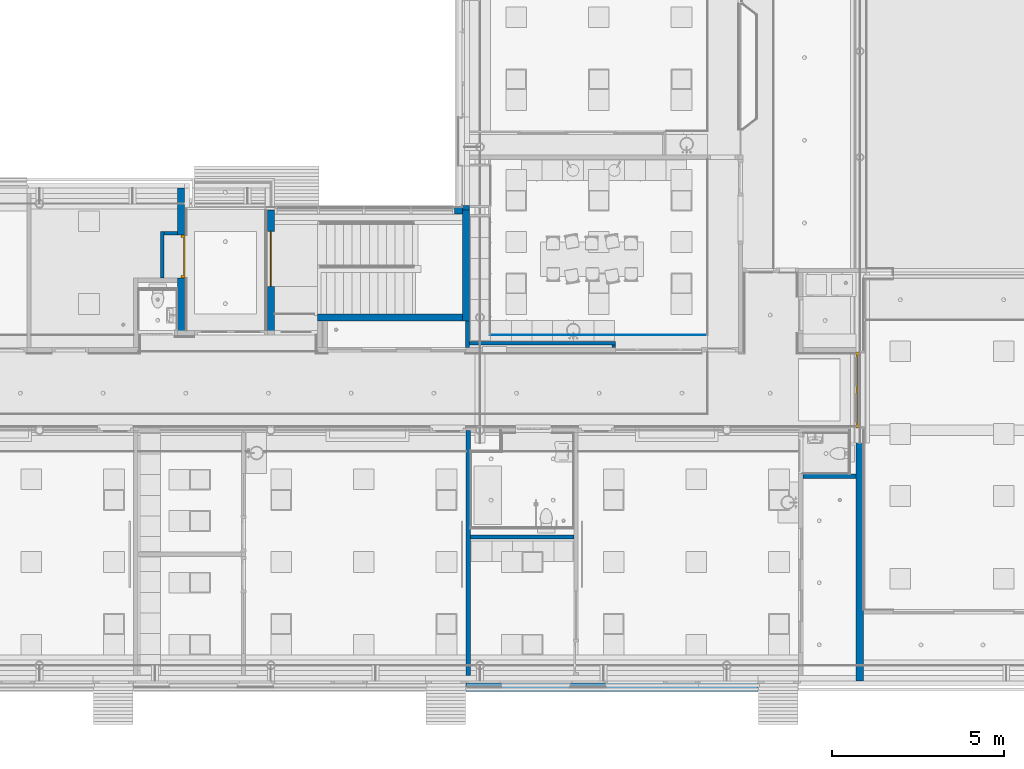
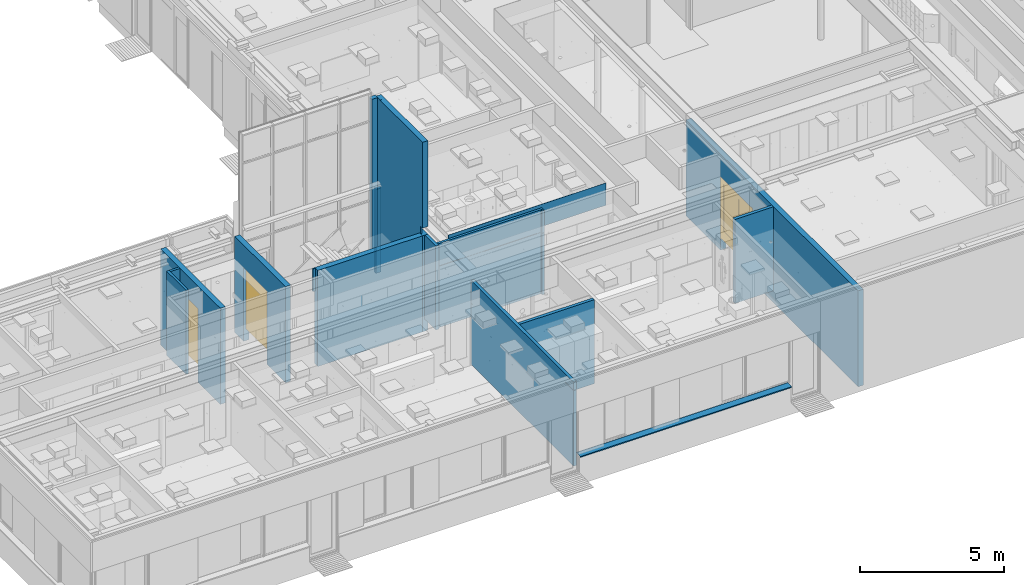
# One storey, part 69 of 347: 17 walls, 2 doors, 1 window, 4 openings.
"""IFC2X3 building model written with IfcOpenShell, lengths in millimetres."""

from ifc_helpers import new_model, entity, si_unit, converted_unit, derived_unit, money_unit, direction, frame, origin_with_axes, place, context, subcontext, project, spatial, open_shell, faceted_brep, surface_model, material, type_object, element, fill, save


model = new_model("IFC2X3")

# Units and contexts
model_context = context("Model", 3, precision=0.01, world=origin_with_axes(), true_north=direction((0.0, 1.0)))
plan_context = context("Plan", 3, precision=0.01, world=origin_with_axes(), true_north=direction((0.0, 1.0)))
body_context = subcontext(model_context, "Body", "Model", "MODEL_VIEW")
ifc_project = project(units=[si_unit("LENGTHUNIT", "METRE", prefix="MILLI"), si_unit("AREAUNIT", "SQUARE_METRE"), si_unit("VOLUMEUNIT", "CUBIC_METRE"), converted_unit("PLANEANGLEUNIT", "DEGREE", entity("IfcPlaneAngleMeasure", 0.0174532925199), si_unit("PLANEANGLEUNIT", "RADIAN"), dimensions=[0, 0, 0, 0, 0, 0, 0]), money_unit("EUR"), converted_unit("TIMEUNIT", "Year", entity("IfcTimeMeasure", 31556926.0), si_unit("TIMEUNIT", "SECOND"), dimensions=[0, 0, 1, 0, 0, 0, 0]), si_unit("MASSUNIT", "GRAM", prefix="KILO"), si_unit("THERMODYNAMICTEMPERATUREUNIT", "DEGREE_CELSIUS"), si_unit("LUMINOUSINTENSITYUNIT", "LUMEN"), si_unit("ENERGYUNIT", "JOULE", prefix="MEGA"), derived_unit("THERMALCONDUCTANCEUNIT", [(si_unit("POWERUNIT", "WATT"), 1), (si_unit("LENGTHUNIT", "METRE"), -1), (si_unit("THERMODYNAMICTEMPERATUREUNIT", "KELVIN"), -1)]), derived_unit("SPECIFICHEATCAPACITYUNIT", [(si_unit("ENERGYUNIT", "JOULE"), 1), (si_unit("MASSUNIT", "GRAM", prefix="KILO"), -1), (si_unit("THERMODYNAMICTEMPERATUREUNIT", "KELVIN"), -1)]), derived_unit("MASSDENSITYUNIT", [(si_unit("MASSUNIT", "GRAM", prefix="KILO"), 1), (si_unit("VOLUMEUNIT", "CUBIC_METRE"), -1)])], contexts=[model_context, plan_context])

# Site, building, storey
site_placement = place(None, origin_with_axes())
site = spatial("IfcSite", under=ifc_project, at=site_placement, Name="Site", CompositionType="ELEMENT")
building_placement = place(site_placement, origin_with_axes())
building = spatial("IfcBuilding", under=site, at=building_placement, Name="Naam gebouw", CompositionType="ELEMENT")
storey_placement = place(building_placement, origin_with_axes())
storey = spatial("IfcBuildingStorey", under=building, at=storey_placement, Name="begane grond", CompositionType="ELEMENT", Elevation=0.0)

# Wall, opening, door
ifc_material_1 = material(Name="Beton gewapend prefab wand")
wall_type_1 = type_object("IfcWallType", Name="Betonwand 200 210", PredefinedType="NOTDEFINED")
wall_1_placement = place(storey_placement, frame((15795.0, 19000.0, -510.0), z_axis=(0.0, 0.0, 1.0), x_axis=(0.0, -1.0, 0.0)))
wall_1 = element("IfcWall", 1, at=wall_1_placement, inside=storey, type_object=wall_type_1, material=ifc_material_1, Name="21_GF 125 ECO DGS/2.75.3A", context=body_context, shape_type="Brep", body=[
    faceted_brep([(2457.0, 210.0, 440.0), (2457.0, 210.0, 3110.0), (1213.0, 210.0, 3110.0), (1213.0, 210.0, 440.0), (1210.0, 210.0, 440.0), (1210.0, 210.0, 0.0), (-150.000034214, 209.999997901, 0.0), (-150.000034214, 209.999997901, 60.0000016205), (-150.0, 210.0, 4070.0), (4000.0, 210.0, 4070.0), (4000.0, 210.0, 0.0), (2460.0, 210.0, 0.0), (2460.0, 210.0, 440.0), (2457.0, 0.0, 440.0), (2457.0, 0.0, 3110.0), (1213.0, 0.0, 3110.0), (1213.0, 0.0, 440.0), (1210.0, 0.0, 440.0), (1210.0, 0.0, 0.0), (-150.00003367, 0.0, 0.0), (-150.0, 0.0, 4070.0), (4000.0, 0.0, 4070.0), (4000.0, 0.0, 0.0), (2460.0, 0.0, 0.0), (2460.0, 0.0, 440.0)], [[[0, 1, 2, 3, 4, 5, 6, 7, 8, 9, 10, 11, 12]], [[1, 0, 13, 14]], [[2, 1, 14, 15]], [[3, 2, 15, 16]], [[3, 16, 17, 4]], [[4, 17, 18, 5]], [[5, 18, 19, 6]], [[8, 7, 6, 19, 20]], [[8, 20, 21, 9]], [[9, 21, 22, 10]], [[23, 11, 10, 22]], [[24, 12, 11, 23]], [[13, 0, 12, 24]], [[14, 13, 24, 23, 22, 21, 20, 19, 18, 17, 16, 15]]]),
])
opening_1_placement = place(wall_1_placement, frame((1835.0, 0.0, 510.0), z_axis=(0.0, 0.0, 1.0), x_axis=(1.0, 0.0, 0.0)))
opening_1 = element("IfcOpeningElement", 2, at=opening_1_placement, cuts=wall_1, Name="32_05.08", context=body_context, shape_type="Brep", body=[
    faceted_brep([(622.0, -210.0, 2600.0), (622.0, -210.0, -70.0), (622.0, 427.0, -70.0), (622.0, 427.0, 2600.0), (-622.0, -210.0, 2600.0), (-622.0, -210.0, -70.0), (-622.0, 427.0, -70.0), (-622.0, 427.0, 2600.0)], [[[0, 1, 2, 3]], [[0, 4, 5, 1]], [[1, 5, 6, 2]], [[3, 2, 6, 7]], [[4, 0, 3, 7]], [[5, 4, 7, 6]]]),
])
door_style_1 = type_object("IfcDoorStyle", Name="D2 25", ConstructionType="NOTDEFINED", OperationType="DOUBLE_DOOR_SINGLE_SWING", ParameterTakesPrecedence=False, Sizeable=False)
door_1_placement = place(opening_1_placement, frame((-622.0, 0.0, 0.0), z_axis=(0.0, 0.0, 1.0), x_axis=(1.0, 0.0, 0.0)))
door_1 = element("IfcDoor", 3, at=door_1_placement, inside=storey, type_object=door_style_1, Name="32_05.08", ObjectType="DOOR", OverallHeight=2600.0, OverallWidth=1244.0, context=body_context, shape_type="Brep", body=[
    faceted_brep([(67.0, 172.0, 0.0), (67.0, 172.0, 2533.0), (67.0, 103.0, 2533.0), (67.0, 103.0, 0.0), (42.0, 172.0, 2533.0), (42.0, 172.0, 0.0), (42.0, 217.0, 2533.0), (0.0, 217.0, 2533.0), (0.0, 103.0, 2533.0), (0.0, 103.0, 0.0), (0.0, 217.0, 0.0), (42.0, 217.0, 0.0)], [[[0, 1, 2, 3]], [[4, 1, 0, 5]], [[4, 6, 7, 8, 2, 1]], [[3, 2, 8, 9]], [[5, 0, 3, 9, 10, 11]], [[6, 4, 5, 11]], [[6, 11, 10, 7]], [[10, 9, 8, 7]]]),
    faceted_brep([(1202.0, 172.0, 2533.0), (1177.0, 172.0, 2533.0), (1177.0, 103.0, 2533.0), (1244.0, 103.0, 2533.0), (1244.0, 217.0, 2533.0), (1202.0, 217.0, 2533.0), (1202.0, 172.0, 0.0), (1177.0, 172.0, 0.0), (1177.0, 103.0, 0.0), (1244.0, 103.0, 0.0), (1244.0, 217.0, 0.0), (1202.0, 217.0, 0.0)], [[[0, 1, 2, 3, 4, 5]], [[1, 0, 6, 7]], [[1, 7, 8, 2]], [[3, 2, 8, 9]], [[4, 3, 9, 10]], [[11, 5, 4, 10]], [[0, 5, 11, 6]], [[6, 11, 10, 9, 8, 7]]]),
    faceted_brep([(42.0, 217.0, 2558.0), (42.0, 217.0, 2533.0), (0.0, 217.0, 2533.0), (0.0, 217.0, 2600.0), (1244.0, 217.0, 2600.0), (1244.0, 217.0, 2533.0), (1202.0, 217.0, 2533.0), (1202.0, 217.0, 2558.0), (42.0, 172.0, 2558.0), (42.0, 172.0, 2533.0), (67.0, 172.0, 2533.0), (67.0, 103.0, 2533.0), (0.0, 103.0, 2533.0), (0.0, 103.0, 2600.0), (1244.0, 103.0, 2600.0), (1244.0, 103.0, 2533.0), (1202.0, 172.0, 2533.0), (1177.0, 103.0, 2533.0), (1177.0, 172.0, 2533.0), (1202.0, 172.0, 2558.0)], [[[0, 1, 2, 3, 4, 5, 6, 7]], [[1, 0, 8, 9]], [[9, 10, 11, 12, 2, 1]], [[2, 12, 13, 3]], [[3, 13, 14, 4]], [[4, 14, 15, 5]], [[16, 6, 5, 15, 17, 18]], [[7, 6, 16, 19]], [[0, 7, 19, 8]], [[16, 18, 10, 9, 8, 19]], [[10, 18, 17, 11]], [[17, 15, 14, 13, 12, 11]]]),
    faceted_brep([(1202.0, 212.0, 0.0), (1202.0, 172.0, 0.0), (622.0, 172.0, 0.0), (622.0, 212.0, 0.0), (1202.0, 212.0, 2558.0), (1202.0, 172.0, 2558.0), (622.0, 172.0, 2558.0), (622.0, 212.0, 2558.0)], [[[0, 1, 2, 3]], [[4, 5, 1, 0]], [[1, 5, 6, 2]], [[3, 2, 6, 7]], [[0, 3, 7, 4]], [[7, 6, 5, 4]]]),
    faceted_brep([(42.0, 212.0, 0.0), (622.0, 212.0, 0.0), (622.0, 172.0, 0.0), (42.0, 172.0, 0.0), (42.0, 212.0, 2558.0), (622.0, 212.0, 2558.0), (622.0, 172.0, 2558.0), (42.0, 172.0, 2558.0)], [[[0, 1, 2, 3]], [[0, 4, 5, 1]], [[1, 5, 6, 2]], [[3, 2, 6, 7]], [[4, 0, 3, 7]], [[5, 4, 7, 6]]]),
])
fill(opening_1, door_1)

# Walls
wall_2_placement = place(storey_placement, frame((24275.0, 18523.0, -510.0), z_axis=(0.0, 0.0, 1.0), x_axis=(0.0, -1.0, 0.0)))
element("IfcWall", 4, at=wall_2_placement, inside=storey, type_object=wall_type_1, material=ifc_material_1, Name="21_GF 125 ECO DGS/2.75.3A", context=body_context, shape_type="Brep", body=[
    faceted_brep([(3233.0, 0.0, 8030.0), (3233.0, 0.0, 4390.0), (0.0, 0.0, 4390.0), (0.0, 0.0, 8030.0), (3233.0, -210.0, 8030.0), (3233.0, -210.0, 4390.0), (0.0, -150.0, 4390.0), (3082.99991568, -210.0, 4390.0), (3082.99991568, -150.0, 4390.0), (0.0, -210.0, 8040.0), (0.0, -150.0, 8040.0), (0.0, -150.0, 8030.0), (0.0, -150.0, 4070.0), (0.0, 0.0, 4070.0), (0.0, 0.0, 0.0), (0.0, -210.0, 0.0), (292.999999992, -150.0, 8030.0), (292.999999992, -210.0, 8030.0), (3082.99991568, -210.0, 4070.0), (292.999999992, -210.0, 8040.0), (3233.0, -210.0, 0.0), (3233.0, -210.0, 4070.0), (3082.99991568, -150.0, 4070.0), (292.999999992, -150.0, 8040.0), (3233.0, 0.0, 4070.0), (3233.0, 0.0, 0.0)], [[[0, 1, 2, 3]], [[4, 5, 1, 0]], [[6, 2, 1, 5, 7, 8]], [[9, 10, 11, 3, 2, 6, 12, 13, 14, 15]], [[16, 17, 4, 0, 3, 11]], [[18, 7, 5, 4, 17, 19, 9, 15, 20, 21]], [[18, 22, 8, 7]], [[6, 8, 22, 12]], [[9, 19, 23, 10]], [[10, 23, 16, 11]], [[12, 22, 18, 21, 24, 13]], [[13, 24, 25, 14]], [[25, 20, 15, 14]], [[17, 16, 23, 19]], [[25, 24, 21, 20]]]),
])
wall_3_placement = place(storey_placement, frame((19865.0, 15500.0, -510.0), z_axis=(0.0, 0.0, 1.0), x_axis=(1.0, 0.0, 0.0)))
element("IfcWall", 5, at=wall_3_placement, inside=storey, type_object=wall_type_1, material=ifc_material_1, Name="21_GF 125 ECO DGS/2.75.3A", context=body_context, shape_type="Brep", body=[
    faceted_brep([(4200.0, 0.0, 0.0), (0.0, 0.0, 0.0), (0.0, 0.0, 510.0), (0.0, 0.0, 3110.0), (-100.0, 0.0, 3110.0), (-100.0, 0.0, 4070.0), (4200.0, 0.0, 4070.0), (4200.0, -210.0, 0.0), (0.0, -210.0, 0.0), (0.0, -210.0, 510.0), (0.0, -210.0, 4070.0), (0.0, -50.0, 4070.0), (0.0, -50.0, 3110.0), (-100.0, -50.0, 3110.0), (-100.0, -50.0, 4070.0), (4200.0, -210.0, 4070.0)], [[[0, 1, 2, 3, 4, 5, 6]], [[7, 8, 1, 0]], [[3, 2, 1, 8, 9, 10, 11, 12]], [[3, 12, 13, 4]], [[4, 13, 14, 5]], [[14, 11, 10, 15, 6, 5]], [[0, 6, 15, 7]], [[10, 9, 8, 7, 15]], [[12, 11, 14, 13]]]),
])

# Wall, openings, window
wall_4_placement = place(storey_placement, frame((18405.0, 18523.0, -510.0), z_axis=(0.0, 0.0, 1.0), x_axis=(0.0, -1.0, 0.0)))
wall_4 = element("IfcWall", 6, at=wall_4_placement, inside=storey, type_object=wall_type_1, material=ifc_material_1, Name="21_GF 125 ECO DGS/2.75.3A", context=body_context, shape_type="Brep", body=[
    faceted_brep([(623.0, 210.0, 510.0), (623.0, 210.0, 440.0), (623.0, 210.0, 0.0), (0.0, 210.0, 0.0), (0.0, 210.0, 4070.0), (3523.0, 210.0, 4070.0), (3523.0, 210.0, 0.0), (2223.0, 210.0, 0.0), (2223.0, 210.0, 440.0), (2223.0, 210.0, 510.0), (2223.0, 210.0, 3110.0), (623.0, 210.0, 3110.0), (623.0, 0.0, 510.0), (623.0, 0.0, 440.0), (623.0, 0.0, 0.0), (0.0, 0.0, 0.0), (0.0, 0.0, 4070.0), (3523.0, 0.0, 4070.0), (3523.0, 0.0, 0.0), (2223.0, 0.0, 0.0), (2223.0, 0.0, 440.0), (2223.0, 0.0, 510.0), (2223.0, 0.0, 3110.0), (623.0, 0.0, 3110.0)], [[[0, 1, 2, 3, 4, 5, 6, 7, 8, 9, 10, 11]], [[1, 0, 12, 13]], [[1, 13, 14, 2]], [[15, 3, 2, 14]], [[15, 16, 4, 3]], [[5, 4, 16, 17]], [[5, 17, 18, 6]], [[6, 18, 19, 7]], [[20, 8, 7, 19]], [[21, 9, 8, 20]], [[9, 21, 22, 10]], [[22, 23, 11, 10]], [[12, 0, 11, 23]], [[13, 12, 23, 22, 21, 20, 19, 18, 17, 16, 15, 14]]]),
])
opening_2_placement = place(wall_4_placement, frame((1423.0, 0.0, 510.0), z_axis=(0.0, 0.0, 1.0), x_axis=(1.0, 0.0, 0.0)))
opening_2 = element("IfcOpeningElement", 7, at=opening_2_placement, cuts=wall_4, Name="31_10.18", context=body_context, shape_type="Brep", body=[
    faceted_brep([(-800.0, 110.0, 2600.0), (-800.0, 110.0, 0.0), (-800.0, -210.0, 0.0), (-800.0, -210.0, 2600.0), (800.0, 110.0, 2600.0), (800.0, 110.0, 0.0), (800.0, -210.0, 0.0), (800.0, -210.0, 2600.0)], [[[0, 1, 2, 3]], [[0, 4, 5, 1]], [[1, 5, 6, 2]], [[3, 2, 6, 7]], [[4, 0, 3, 7]], [[5, 4, 7, 6]]]),
    faceted_brep([(-800.0, 110.0, 0.0), (-800.0, 110.0, 2600.0), (-800.0, 420.0, 2600.0), (-800.0, 420.0, 0.0), (800.0, 110.0, 0.0), (800.0, 110.0, 2600.0), (800.0, 420.0, 2600.0), (800.0, 420.0, 0.0)], [[[0, 1, 2, 3]], [[0, 4, 5, 1]], [[1, 5, 6, 2]], [[3, 2, 6, 7]], [[4, 0, 3, 7]], [[5, 4, 7, 6]]]),
])
opening_3_placement = place(wall_4_placement, frame((1423.0, 0.0, 440.0), z_axis=(0.0, 0.0, 1.0), x_axis=(1.0, 0.0, 0.0)))
element("IfcOpeningElement", 8, at=opening_3_placement, cuts=wall_4, Name="32_-", context=body_context, shape_type="Brep", body=[
    faceted_brep([(-800.0, -210.0, 0.0), (-800.0, -210.0, 2670.0), (-800.0, 420.0, 2670.0), (-800.0, 420.0, 0.0), (800.0, -210.0, 0.0), (800.0, -210.0, 2670.0), (800.0, 420.0, 2670.0), (800.0, 420.0, 0.0)], [[[0, 1, 2, 3]], [[0, 4, 5, 1]], [[1, 5, 6, 2]], [[3, 2, 6, 7]], [[4, 0, 3, 7]], [[5, 4, 7, 6]]]),
])
window_style = type_object("IfcWindowStyle", Name="R1 25", ConstructionType="NOTDEFINED", OperationType="SINGLE_PANEL", ParameterTakesPrecedence=False, Sizeable=False)
window_placement = place(opening_2_placement, frame((-800.0, 0.0, 0.0), z_axis=(0.0, 0.0, 1.0), x_axis=(1.0, 0.0, 0.0)))
window = element("IfcWindow", 9, at=window_placement, inside=storey, type_object=window_style, Name="31_10.18", ObjectType="WINDOW", OverallHeight=2600.0, OverallWidth=1600.0, context=body_context, shape_type="SurfaceModel", body=[
    faceted_brep([(1580.0, 90.0, 2580.0), (1600.0, 90.0, 2580.0), (1600.0, 110.0, 2580.0), (1580.0, 110.0, 2580.0), (1580.0, 90.0, 20.0), (1600.0, 90.0, 20.0), (1600.0, 110.0, 20.0), (1580.0, 110.0, 20.0)], [[[0, 1, 2, 3]], [[0, 4, 5, 1]], [[1, 5, 6, 2]], [[3, 2, 6, 7]], [[4, 0, 3, 7]], [[5, 4, 7, 6]]]),
    faceted_brep([(20.0, 90.0, 20.0), (0.0, 90.0, 20.0), (0.0, 110.0, 20.0), (20.0, 110.0, 20.0), (20.0, 90.0, 2580.0), (0.0, 90.0, 2580.0), (0.0, 110.0, 2580.0), (20.0, 110.0, 2580.0)], [[[0, 1, 2, 3]], [[0, 4, 5, 1]], [[1, 5, 6, 2]], [[3, 2, 6, 7]], [[4, 0, 3, 7]], [[5, 4, 7, 6]]]),
    faceted_brep([(1580.0, 90.0, 20.0), (1600.0, 90.0, 20.0), (1600.0, 110.0, 20.0), (1580.0, 110.0, 20.0), (20.0, 90.0, 20.0), (0.0, 90.0, 20.0), (0.0, 90.0, 0.0), (1600.0, 90.0, 0.0), (1600.0, 110.0, 0.0), (0.0, 110.0, 0.0), (0.0, 110.0, 20.0), (20.0, 110.0, 20.0)], [[[0, 1, 2, 3]], [[0, 4, 5, 6, 7, 1]], [[1, 7, 8, 2]], [[3, 2, 8, 9, 10, 11]], [[4, 0, 3, 11]], [[5, 4, 11, 10]], [[6, 5, 10, 9]], [[7, 6, 9, 8]]]),
    faceted_brep([(20.0, 90.0, 2580.0), (0.0, 90.0, 2580.0), (0.0, 110.0, 2580.0), (20.0, 110.0, 2580.0), (1580.0, 90.0, 2580.0), (1600.0, 90.0, 2580.0), (1600.0, 90.0, 2600.0), (0.0, 90.0, 2600.0), (0.0, 110.0, 2600.0), (1600.0, 110.0, 2600.0), (1600.0, 110.0, 2580.0), (1580.0, 110.0, 2580.0)], [[[0, 1, 2, 3]], [[0, 4, 5, 6, 7, 1]], [[1, 7, 8, 2]], [[3, 2, 8, 9, 10, 11]], [[4, 0, 3, 11]], [[5, 4, 11, 10]], [[6, 5, 10, 9]], [[7, 6, 9, 8]]]),
    surface_model("IfcShellBasedSurfaceModel", [(1580.0, 90.0, 20.0), (1580.0, 90.0, 2580.0), (20.0, 90.0, 2580.0), (20.0, 90.0, 20.0)], [open_shell([[[0, 1, 2, 3]]])]),
    surface_model("IfcShellBasedSurfaceModel", [(1580.0, 110.0, 20.0), (20.0, 110.0, 20.0), (20.0, 110.0, 2580.0), (1580.0, 110.0, 2580.0)], [open_shell([[[0, 1, 2, 3]]])]),
])
fill(opening_2, window)

# Wall, opening, door
wall_5_placement = place(storey_placement, frame((35705.0, 16799.9999672, -510.000001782), z_axis=(0.0, 0.0, 1.0), x_axis=(0.0, -1.0, 0.0)))
wall_5 = element("IfcWall", 10, at=wall_5_placement, inside=storey, type_object=wall_type_1, material=ifc_material_1, Name="21_GF 125 ECO DGS/2.75.3A", context=body_context, shape_type="Brep", body=[
    faceted_brep([(4612.49996722, 0.0, 440.000001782), (4612.49996722, 0.0, 3110.00000178), (2399.99996722, 0.0, 3110.00000178), (2399.99996722, 0.0, 440.000001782), (2399.99996722, 0.0, 1.78216530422e-06), (0.0, 0.0, 0.0), (0.0, 0.0, 4070.00000178), (11949.9999672, 0.0, 4070.00000178), (11949.9999672, 0.0, 0.0), (4599.99996722, 0.0, 1.78216530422e-06), (4599.99996722, 0.0, 440.000001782), (4612.49996722, -210.0, 440.000001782), (4612.49996722, -210.0, 3110.00000178), (2399.99996722, -210.0, 3110.00000178), (2399.99996722, -210.0, 440.000001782), (2399.99996722, -210.0, 1.78216530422e-06), (0.0, -210.0, 0.0), (0.0, -210.0, 4070.00000178), (11949.9999672, -210.0, 4070.00000178), (11949.9999672, -210.0, 0.0), (4599.99996722, -210.0, 1.78216530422e-06), (4599.99996722, -210.0, 440.000001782)], [[[0, 1, 2, 3, 4, 5, 6, 7, 8, 9, 10]], [[1, 0, 11, 12]], [[2, 1, 12, 13]], [[3, 2, 13, 14]], [[3, 14, 15, 4]], [[5, 4, 15, 16]], [[6, 5, 16, 17]], [[7, 6, 17, 18]], [[19, 8, 7, 18]], [[19, 20, 9, 8]], [[21, 10, 9, 20]], [[0, 10, 21, 11]], [[11, 21, 20, 19, 18, 17, 16, 15, 14, 13, 12]]]),
])
opening_4_placement = place(wall_5_placement, frame((3506.24996722, 0.0, 510.000001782), z_axis=(0.0, 0.0, 1.0), x_axis=(1.0, 0.0, 0.0)))
opening_4 = element("IfcOpeningElement", 11, at=opening_4_placement, cuts=wall_5, Name="32_05.03", context=body_context, shape_type="Brep", body=[
    faceted_brep([(-1106.25, 210.0, 2600.0), (-1106.25, 210.0, -70.0), (-1106.25, -427.0, -70.0), (-1106.25, -427.0, 2600.0), (1106.25, 210.0, 2600.0), (1106.25, 210.0, -70.0), (1106.25, -427.0, -70.0), (1106.25, -427.0, 2600.0)], [[[0, 1, 2, 3]], [[0, 4, 5, 1]], [[1, 5, 6, 2]], [[3, 2, 6, 7]], [[4, 0, 3, 7]], [[5, 4, 7, 6]]]),
])
door_style_2 = type_object("IfcDoorStyle", Name="D2 25", ConstructionType="NOTDEFINED", OperationType="DOUBLE_DOOR_SINGLE_SWING", ParameterTakesPrecedence=False, Sizeable=False)
door_2_placement = place(opening_4_placement, frame((1106.25, 0.0, 0.0), z_axis=(0.0, 0.0, 1.0), x_axis=(-1.0, 0.0, 0.0)))
door_2 = element("IfcDoor", 12, at=door_2_placement, inside=storey, type_object=door_style_2, Name="32_05.03", ObjectType="DOOR", OverallHeight=2600.0, OverallWidth=2212.5, context=body_context, shape_type="SurfaceModel", body=[
    faceted_brep([(90.0, 163.0, 0.0), (90.0, 163.0, 2510.0), (90.0, 78.0, 2510.0), (90.0, 78.0, 0.0), (65.0, 163.0, 2510.0), (65.0, 163.0, 0.0), (65.0, 217.0, 2510.0), (0.0, 217.0, 2510.0), (0.0, 78.0, 2510.0), (0.0, 78.0, 0.0), (0.0, 217.0, 0.0), (65.0, 217.0, 0.0)], [[[0, 1, 2, 3]], [[4, 1, 0, 5]], [[4, 6, 7, 8, 2, 1]], [[3, 2, 8, 9]], [[5, 0, 3, 9, 10, 11]], [[6, 4, 5, 11]], [[6, 11, 10, 7]], [[10, 9, 8, 7]]]),
    faceted_brep([(2147.5, 163.0, 2510.0), (2122.5, 163.0, 2510.0), (2122.5, 78.0, 2510.0), (2212.5, 78.0, 2510.0), (2212.5, 217.0, 2510.0), (2147.5, 217.0, 2510.0), (2147.5, 163.0, 0.0), (2122.5, 163.0, 0.0), (2122.5, 78.0, 0.0), (2212.5, 78.0, 0.0), (2212.5, 217.0, 0.0), (2147.5, 217.0, 0.0)], [[[0, 1, 2, 3, 4, 5]], [[1, 0, 6, 7]], [[1, 7, 8, 2]], [[3, 2, 8, 9]], [[4, 3, 9, 10]], [[11, 5, 4, 10]], [[0, 5, 11, 6]], [[6, 11, 10, 9, 8, 7]]]),
    faceted_brep([(65.0, 217.0, 2535.0), (65.0, 217.0, 2510.0), (0.0, 217.0, 2510.0), (0.0, 217.0, 2600.0), (2212.5, 217.0, 2600.0), (2212.5, 217.0, 2510.0), (2147.5, 217.0, 2510.0), (2147.5, 217.0, 2535.0), (65.0, 163.0, 2535.0), (65.0, 163.0, 2510.0), (90.0, 163.0, 2510.0), (90.0, 78.0, 2510.0), (0.0, 78.0, 2510.0), (0.0, 78.0, 2600.0), (2212.5, 78.0, 2600.0), (2212.5, 78.0, 2510.0), (2147.5, 163.0, 2510.0), (2122.5, 78.0, 2510.0), (2122.5, 163.0, 2510.0), (2147.5, 163.0, 2535.0)], [[[0, 1, 2, 3, 4, 5, 6, 7]], [[1, 0, 8, 9]], [[9, 10, 11, 12, 2, 1]], [[2, 12, 13, 3]], [[3, 13, 14, 4]], [[4, 14, 15, 5]], [[16, 6, 5, 15, 17, 18]], [[7, 6, 16, 19]], [[0, 7, 19, 8]], [[16, 18, 10, 9, 8, 19]], [[10, 18, 17, 11]], [[17, 15, 14, 13, 12, 11]]]),
    faceted_brep([(2147.5, 203.0, 400.0), (2147.5, 163.0, 400.0), (2007.5, 163.0, 400.0), (2007.5, 203.0, 400.0), (2147.5, 203.0, 2395.0), (2147.5, 163.0, 2395.0), (2007.5, 163.0, 2395.0), (2007.5, 203.0, 2395.0)], [[[0, 1, 2, 3]], [[4, 5, 1, 0]], [[1, 5, 6, 2]], [[3, 2, 6, 7]], [[0, 3, 7, 4]], [[7, 6, 5, 4]]]),
    faceted_brep([(1106.25, 203.0, 400.0), (1106.25, 163.0, 400.0), (1106.25, 163.0, 2395.0), (1106.25, 203.0, 2395.0), (1246.25, 203.0, 400.0), (1246.25, 163.0, 400.0), (1246.25, 163.0, 2395.0), (1246.25, 203.0, 2395.0)], [[[0, 1, 2, 3]], [[4, 5, 1, 0]], [[1, 5, 6, 2]], [[3, 2, 6, 7]], [[0, 3, 7, 4]], [[7, 6, 5, 4]]]),
    faceted_brep([(2147.5, 203.0, 0.0), (2147.5, 163.0, 0.0), (1106.25, 163.0, 0.0), (1106.25, 203.0, 0.0), (2147.5, 203.0, 400.0), (2147.5, 163.0, 400.0), (2007.5, 163.0, 400.0), (1246.25, 163.0, 400.0), (1106.25, 163.0, 400.0), (1106.25, 203.0, 400.0), (1246.25, 203.0, 400.0), (2007.5, 203.0, 400.0)], [[[0, 1, 2, 3]], [[4, 5, 1, 0]], [[1, 5, 6, 7, 8, 2]], [[3, 2, 8, 9]], [[0, 3, 9, 10, 11, 4]], [[11, 6, 5, 4]], [[10, 7, 6, 11]], [[9, 8, 7, 10]]]),
    faceted_brep([(2147.5, 203.0, 2535.0), (2147.5, 163.0, 2535.0), (2147.5, 163.0, 2395.0), (2147.5, 203.0, 2395.0), (1106.25, 203.0, 2535.0), (1106.25, 163.0, 2535.0), (1106.25, 163.0, 2395.0), (1246.25, 163.0, 2395.0), (2007.5, 163.0, 2395.0), (2007.5, 203.0, 2395.0), (1246.25, 203.0, 2395.0), (1106.25, 203.0, 2395.0)], [[[0, 1, 2, 3]], [[4, 5, 1, 0]], [[1, 5, 6, 7, 8, 2]], [[3, 2, 8, 9]], [[0, 3, 9, 10, 11, 4]], [[11, 6, 5, 4]], [[10, 7, 6, 11]], [[9, 8, 7, 10]]]),
    surface_model("IfcShellBasedSurfaceModel", [(2007.5, 189.0, 400.0), (1246.25, 189.0, 400.0), (1246.25, 189.0, 2395.0), (2007.5, 189.0, 2395.0)], [open_shell([[[0, 1, 2, 3]]])]),
    surface_model("IfcShellBasedSurfaceModel", [(2007.5, 177.0, 400.0), (2007.5, 177.0, 2395.0), (1246.25, 177.0, 2395.0), (1246.25, 177.0, 400.0)], [open_shell([[[0, 1, 2, 3]]])]),
    faceted_brep([(65.0, 203.0, 400.0), (205.0, 203.0, 400.0), (205.0, 163.0, 400.0), (65.0, 163.0, 400.0), (65.0, 203.0, 2395.0), (205.0, 203.0, 2395.0), (205.0, 163.0, 2395.0), (65.0, 163.0, 2395.0)], [[[0, 1, 2, 3]], [[0, 4, 5, 1]], [[1, 5, 6, 2]], [[3, 2, 6, 7]], [[4, 0, 3, 7]], [[5, 4, 7, 6]]]),
    faceted_brep([(1106.25, 203.0, 400.0), (1106.25, 203.0, 2395.0), (1106.25, 163.0, 2395.0), (1106.25, 163.0, 400.0), (966.25, 203.0, 400.0), (966.25, 203.0, 2395.0), (966.25, 163.0, 2395.0), (966.25, 163.0, 400.0)], [[[0, 1, 2, 3]], [[0, 4, 5, 1]], [[1, 5, 6, 2]], [[3, 2, 6, 7]], [[4, 0, 3, 7]], [[5, 4, 7, 6]]]),
    faceted_brep([(65.0, 203.0, 0.0), (1106.25, 203.0, 0.0), (1106.25, 163.0, 0.0), (65.0, 163.0, 0.0), (65.0, 203.0, 400.0), (205.0, 203.0, 400.0), (966.25, 203.0, 400.0), (1106.25, 203.0, 400.0), (1106.25, 163.0, 400.0), (966.25, 163.0, 400.0), (205.0, 163.0, 400.0), (65.0, 163.0, 400.0)], [[[0, 1, 2, 3]], [[0, 4, 5, 6, 7, 1]], [[1, 7, 8, 2]], [[3, 2, 8, 9, 10, 11]], [[4, 0, 3, 11]], [[5, 4, 11, 10]], [[6, 5, 10, 9]], [[7, 6, 9, 8]]]),
    faceted_brep([(65.0, 203.0, 2535.0), (65.0, 203.0, 2395.0), (65.0, 163.0, 2395.0), (65.0, 163.0, 2535.0), (1106.25, 203.0, 2535.0), (1106.25, 203.0, 2395.0), (966.25, 203.0, 2395.0), (205.0, 203.0, 2395.0), (205.0, 163.0, 2395.0), (966.25, 163.0, 2395.0), (1106.25, 163.0, 2395.0), (1106.25, 163.0, 2535.0)], [[[0, 1, 2, 3]], [[0, 4, 5, 6, 7, 1]], [[1, 7, 8, 2]], [[3, 2, 8, 9, 10, 11]], [[4, 0, 3, 11]], [[5, 4, 11, 10]], [[6, 5, 10, 9]], [[7, 6, 9, 8]]]),
    surface_model("IfcShellBasedSurfaceModel", [(205.0, 189.0, 400.0), (205.0, 189.0, 2395.0), (966.25, 189.0, 2395.0), (966.25, 189.0, 400.0)], [open_shell([[[0, 1, 2, 3]]])]),
    surface_model("IfcShellBasedSurfaceModel", [(205.0, 177.0, 400.0), (966.25, 177.0, 400.0), (966.25, 177.0, 2395.0), (205.0, 177.0, 2395.0)], [open_shell([[[0, 1, 2, 3]]])]),
])
fill(opening_4, door_2)

# Walls
ifc_material_2 = material(Name="ALG - LICHTE SCHEIDINGSWAND")
wall_type_2 = type_object("IfcWallType", Name="ALG LSW 125 125", PredefinedType="NOTDEFINED")
wall_6_placement = place(storey_placement, frame((24175.0, 12115.0, 0.0), z_axis=(0.0, 0.0, 1.0), x_axis=(0.0, -1.0, 0.0)))
element("IfcWall", 13, at=wall_6_placement, inside=storey, type_object=wall_type_2, material=ifc_material_2, Name="22_GF 125 ECO DGS/2.75.3A", context=body_context, shape_type="Brep", body=[
    faceted_brep([(52.5, 125.0, 2600.0), (615.00002799, 125.0, 2600.0), (615.00002799, 125.0, 2612.0), (0.0, 125.0, 2612.0), (0.0, 125.0, 3560.0), (7115.00000221, 125.0, 3560.0), (7115.00002799, 125.0, 3212.0), (6515.00002799, 125.0, 3212.0), (6515.00002799, 125.0, 3200.0), (7115.00002799, 125.0, 3200.0), (7115.00000221, 125.0, 0.0), (0.0, 125.0, 0.0), (0.0, 125.0, 2600.0), (0.0, 0.0, 2600.0), (615.00002799, 0.0, 2600.0), (615.00002799, 0.0, 2612.0), (0.0, 0.0, 2612.0), (0.0, 0.0, 3560.0), (7115.00000221, 0.0, 3560.0), (7115.00002799, 0.0, 3212.0), (6515.00002799, 0.0, 3212.0), (6515.00002799, 0.0, 3200.0), (7115.00002799, 0.0, 3200.0), (7115.00000221, 0.0, 0.0), (0.0, 0.0, 0.0)], [[[0, 1, 2, 3, 4, 5, 6, 7, 8, 9, 10, 11, 12]], [[13, 14, 1, 0, 12]], [[15, 2, 1, 14]], [[3, 2, 15, 16]], [[4, 3, 16, 17]], [[4, 17, 18, 5]], [[18, 19, 6, 5]], [[20, 7, 6, 19]], [[21, 8, 7, 20]], [[22, 9, 8, 21]], [[10, 9, 22, 23]], [[24, 11, 10, 23]], [[24, 13, 12, 11]], [[15, 14, 13, 24, 23, 22, 21, 20, 19, 18, 17, 16]]]),
])
wall_7_placement = place(storey_placement, frame((24275.0, 14400.0, 0.0), z_axis=(0.0, 0.0, 1.0), x_axis=(0.0, 1.0, 0.0)))
element("IfcWall", 14, at=wall_7_placement, inside=storey, type_object=wall_type_2, material=ifc_material_2, Name="22_GF 125 ECO DGS/2.75.2A", context=body_context, shape_type="Brep", body=[
    faceted_brep([(125.0, 0.0, 0.0), (125.0, 125.0, 0.0), (890.0, 125.0, 0.0), (890.0, 0.0, 0.0), (125.0, 0.0, 3560.0), (125.0, 125.0, 3560.0), (890.0, 125.0, 3560.0), (890.0, 0.0, 3560.0)], [[[0, 1, 2, 3]], [[4, 5, 1, 0]], [[1, 5, 6, 2]], [[7, 3, 2, 6]], [[4, 0, 3, 7]], [[5, 4, 7, 6]]]),
])
wall_8_placement = place(storey_placement, frame((24175.0, 9027.5, 0.0), z_axis=(0.0, 0.0, 1.0), x_axis=(1.0, 0.0, 0.0)))
element("IfcWall", 15, at=wall_8_placement, inside=storey, type_object=wall_type_2, material=ifc_material_2, Name="22_GF 125 ECO DGS/2.75.2A", context=body_context, shape_type="Brep", body=[
    faceted_brep([(3125.0, -62.5, 3560.0), (3125.0, 62.5, 3560.0), (125.0, 62.5, 3560.0), (125.0, -62.5, 3560.0), (3125.0, -62.5, 0.0), (3125.0, 62.5, 0.0), (125.0, 62.5, 0.0), (125.0, -62.5, 0.0)], [[[0, 1, 2, 3]], [[1, 0, 4, 5]], [[1, 5, 6, 2]], [[7, 3, 2, 6]], [[4, 0, 3, 7]], [[5, 4, 7, 6]]]),
])
wall_9_placement = place(storey_placement, frame((33825.0, 10850.0, 0.0), z_axis=(0.0, 0.0, 1.0), x_axis=(1.0, 0.0, 0.0)))
element("IfcWall", 16, at=wall_9_placement, inside=storey, type_object=wall_type_2, material=ifc_material_2, Name="22_GF 125 ECO DGS/2.75.3A", context=body_context, shape_type="Brep", body=[
    faceted_brep([(1670.0, -125.0, 3560.0), (1670.0, 0.0, 3560.0), (125.0, 0.0, 3560.0), (125.0, -125.0, 3560.0), (1670.0, -125.0, 0.0), (1670.0, 0.0, 0.0), (125.0, 0.0, 0.0), (125.0, -125.0, 0.0)], [[[0, 1, 2, 3]], [[1, 0, 4, 5]], [[1, 5, 6, 2]], [[7, 3, 2, 6]], [[4, 0, 3, 7]], [[5, 4, 7, 6]]]),
])
wall_type_3 = type_object("IfcWallType", Name="44 koof 50", PredefinedType="NOTDEFINED")
wall_10_placement = place(storey_placement, frame((24875.0, 14890.0000948, 2600.0), z_axis=(0.0, 0.0, 1.0), x_axis=(1.0, 0.0, 0.0)))
element("IfcWall", 17, at=wall_10_placement, inside=storey, type_object=wall_type_3, material=ifc_material_2, Name="21_22 betonwand", context=body_context, shape_type="Brep", body=[
    faceted_brep([(6300.0, -12.0, 960.0), (6300.0, -12.0, 12.0), (6300.0, 0.0, 12.0), (6300.0, 0.0, 960.0), (-12.0, -12.0, 960.0), (-12.0, -12.0, 12.0), (-12.0, 0.0, 12.0), (-12.0, 0.0, 960.0)], [[[0, 1, 2, 3]], [[4, 5, 1, 0]], [[5, 6, 2, 1]], [[3, 2, 6, 7]], [[4, 0, 3, 7]], [[7, 6, 5, 4]]]),
])
wall_type_4 = type_object("IfcWallType", Name="ALG LSW 100", PredefinedType="NOTDEFINED")
wall_11_placement = place(storey_placement, frame((15405.0, 16415.0, 0.0), z_axis=(0.0, 0.0, 1.0), x_axis=(0.0, 1.0, 0.0)))
element("IfcWall", 18, at=wall_11_placement, inside=storey, type_object=wall_type_4, material=ifc_material_2, Name="22_GF 125 ECO DGS/2.75.4A", context=body_context, shape_type="Brep", body=[
    faceted_brep([(1475.0, 100.0, 0.0), (1475.0, 100.0, 3560.0), (1475.0, 0.0, 3560.0), (1475.0, 0.0, 0.0), (125.0, 100.0, 0.0), (125.0, 100.0, 3560.0), (125.0, 0.0, 3560.0), (125.0, 0.0, 0.0)], [[[0, 1, 2, 3]], [[4, 5, 1, 0]], [[5, 6, 2, 1]], [[3, 2, 6, 7]], [[0, 3, 7, 4]], [[7, 6, 5, 4]]]),
])
wall_12_placement = place(storey_placement, frame((15405.0, 17790.0, 0.0), z_axis=(0.0, 0.0, 1.0), x_axis=(1.0, 0.0, 0.0)))
element("IfcWall", 19, at=wall_12_placement, inside=storey, type_object=wall_type_4, material=ifc_material_2, Name="22_GF 125 ECO DGS/2.75.4A", context=body_context, shape_type="Brep", body=[
    faceted_brep([(0.0, 100.0, 0.0), (0.0, 100.0, 3560.0), (390.0, 100.0, 3560.0), (390.0, 100.0, 0.0), (0.0, 0.0, 0.0), (0.0, 0.0, 3560.0), (390.0, 0.0, 3560.0), (390.0, 0.0, 0.0)], [[[0, 1, 2, 3]], [[4, 5, 1, 0]], [[5, 6, 2, 1]], [[3, 2, 6, 7]], [[0, 3, 7, 4]], [[7, 6, 5, 4]]]),
])
ifc_material_3 = material(Name="ALG - LICHTE SCHEIDINGSWAND - master")
wall_type_5 = type_object("IfcWallType", Name="ALG - LICHTE SCHEIDINGSWAND - master 210", PredefinedType="NOTDEFINED")
wall_13_placement = place(storey_placement, frame((24275.0, 18523.0, 0.0), z_axis=(0.0, 0.0, 1.0), x_axis=(0.0, 1.0, 0.0)))
element("IfcWall", 20, at=wall_13_placement, inside=storey, type_object=wall_type_5, material=ifc_material_3, Name="22_GF 125 ECO DGS/2.75.3A", context=body_context, shape_type="Brep", body=[
    faceted_brep([(122.0, 210.0, 3570.0), (122.0, 150.0, 3570.0), (122.0, 150.0, 3560.0), (122.0, 0.0, 3560.0), (122.0, 0.0, 0.0), (122.0, 210.0, 0.0), (0.0, 210.0, 3570.0), (0.0, 150.0, 3570.0), (0.0, 150.0, 3560.0), (0.0, 0.0, 3560.0), (0.0, 0.0, 0.0), (0.0, 210.0, 0.0)], [[[0, 1, 2, 3, 4, 5]], [[6, 7, 1, 0]], [[8, 2, 1, 7]], [[8, 9, 3, 2]], [[4, 3, 9, 10]], [[5, 4, 10, 11]], [[0, 5, 11, 6]], [[9, 8, 7, 6, 11, 10]]]),
])
ifc_material_4 = material(Name="Metaal - Aluminium beige")
wall_type_6 = type_object("IfcWallType", Name="32 waterslag (negge 210mm) 252 x 90", PredefinedType="NOTDEFINED")
wall_14_placement = place(storey_placement, frame((32648.0, 4777.99999991, 720.0), z_axis=(0.0, 0.0, 1.0), x_axis=(-1.0, 0.0, 0.0)))
element("IfcWall", 21, at=wall_14_placement, inside=storey, type_object=wall_type_6, material=ifc_material_4, Name="21_31 waterslag", context=body_context, shape_type="Brep", body=[
    faceted_brep([(0.0, -13.9991300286, 10.0000166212), (8473.0, -13.9991300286, 10.0000166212), (8473.0, -12.0001235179, 10.0000166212), (0.0, -12.0001235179, 10.0000166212), (0.0, -13.9991300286, -16.8402038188), (8473.0, -13.9991300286, -16.8402038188), (8473.0, 235.999895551, -36.8748605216), (8473.0, 235.999895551, -78.0099675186), (8473.0, 222.999900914, -78.0099675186), (8473.0, 222.999900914, -80.009969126), (8473.0, 237.999900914, -80.009969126), (8473.0, 237.999900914, -35.0099705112), (8473.0, -11.9992673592, -15.0003939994), (0.0, -11.9992673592, -15.0003939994), (0.0, 237.999900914, -35.0099705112), (0.0, 237.999900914, -80.009969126), (0.0, 222.999900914, -80.009969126), (0.0, 222.999900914, -78.0099675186), (0.0, 235.999895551, -78.0099675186), (0.0, 235.999895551, -36.8748605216)], [[[0, 1, 2, 3]], [[4, 5, 1, 0]], [[2, 1, 5, 6, 7, 8, 9, 10, 11, 12]], [[3, 2, 12, 13]], [[4, 0, 3, 13, 14, 15, 16, 17, 18, 19]], [[19, 6, 5, 4]], [[18, 7, 6, 19]], [[17, 8, 7, 18]], [[16, 9, 8, 17]], [[15, 10, 9, 16]], [[14, 11, 10, 15]], [[13, 12, 11, 14]]]),
])
wall_type_7 = type_object("IfcWallType", Name="ALG LSW 100 voorzetwand 100", PredefinedType="NOTDEFINED")
wall_15_placement = place(storey_placement, frame((24275.0, 14700.0, 0.0), z_axis=(0.0, 0.0, 1.0), x_axis=(1.0, 0.0, 0.0)))
element("IfcWall", 22, at=wall_15_placement, inside=storey, type_object=wall_type_7, material=ifc_material_2, Name="22_GF 125 ECO DGS/2.75.2A", context=body_context, shape_type="Brep", body=[
    faceted_brep([(4236.0, -100.0, 2.0), (4236.0, 0.0, 2.0), (4236.0, 0.0, 2600.0), (4236.0, -100.0, 2600.0), (4.03469577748e-05, 0.0, 2.0), (4.14569143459e-05, -100.0, 2.0), (5.01777819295e-06, 0.0, 2600.0), (3.34519967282e-06, -100.0, 2600.0)], [[[0, 1, 2, 3]], [[4, 1, 0, 5]], [[1, 4, 6, 2]], [[6, 7, 3, 2]], [[5, 0, 3, 7]], [[4, 5, 7, 6]]]),
    faceted_brep([(4236.0, -100.0, 3560.0), (4236.0, -100.0, 2612.0), (4236.0, 0.0, 2612.0), (4236.0, 0.0, 3560.0), (0.0, -100.0, 3560.0), (3.34519967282e-06, -100.0, 2612.0), (5.01777819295e-06, 0.0, 2612.0), (0.0, 0.0, 3560.0)], [[[0, 1, 2, 3]], [[4, 5, 1, 0]], [[5, 6, 2, 1]], [[3, 2, 6, 7]], [[4, 0, 3, 7]], [[7, 6, 5, 4]]]),
])
wall_16_placement = place(storey_placement, frame((28511.0, 14700.0, 0.0), z_axis=(0.0, 0.0, 1.0), x_axis=(0.0, -1.0, 0.0)))
element("IfcWall", 23, at=wall_16_placement, inside=storey, type_object=wall_type_7, material=ifc_material_2, Name="22_GF 125 ECO DGS/2.75.3A", context=body_context, shape_type="Brep", body=[
    faceted_brep([(175.0, 0.0, 2.0), (100.0, 0.0, 2.0), (100.0, 0.0, 2600.0), (175.0, 0.0, 2600.0), (100.0, -100.0, 2.0), (175.000027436, -36.0000339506, 2.0), (175.000027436, -100.0, 2.0), (100.0, -100.0, 2600.0), (175.0, -100.0, 2600.0)], [[[0, 1, 2, 3]], [[4, 1, 0, 5, 6]], [[1, 4, 7, 2]], [[7, 8, 3, 2]], [[5, 0, 3, 8, 6]], [[4, 6, 8, 7]]]),
    faceted_brep([(175.0, 0.0, 3560.0), (175.0, 0.0, 2612.0), (100.0, 0.0, 2612.0), (100.0, 0.0, 3560.0), (175.0, -100.0, 3560.0), (175.0, -100.0, 2612.0), (100.0, -100.0, 2612.0), (100.0, -100.0, 3560.0)], [[[0, 1, 2, 3]], [[4, 5, 1, 0]], [[5, 6, 2, 1]], [[3, 2, 6, 7]], [[7, 4, 0, 3]], [[7, 6, 5, 4]]]),
])
ifc_material_5 = material(Name="Isolatie - EPS")
wall_type_8 = type_object("IfcWallType", Name="Isolatie - EPS 186", PredefinedType="NOTDEFINED")
wall_17_placement = place(storey_placement, frame((23836.0, 18400.0, 0.0), z_axis=(0.0, 0.0, 1.0), x_axis=(1.0, 0.0, 0.0)))
element("IfcWall", 24, at=wall_17_placement, inside=storey, type_object=wall_type_8, material=ifc_material_5, Name="22_GF 125 ECO DGS/2.75.2A", context=body_context, shape_type="Brep", body=[
    faceted_brep([(0.0, 191.0, 0.0), (229.0, 191.0, 0.0), (229.0, 5.0, 0.0), (0.0, 5.0, 0.0), (0.0, 191.0, 7530.0), (229.0, 191.0, 7530.0), (229.0, 5.0, 7530.0), (0.0, 5.0, 7530.0)], [[[0, 1, 2, 3]], [[4, 5, 1, 0]], [[6, 2, 1, 5]], [[3, 2, 6, 7]], [[7, 4, 0, 3]], [[7, 6, 5, 4]]]),
])

save(model, "model.ifc")
